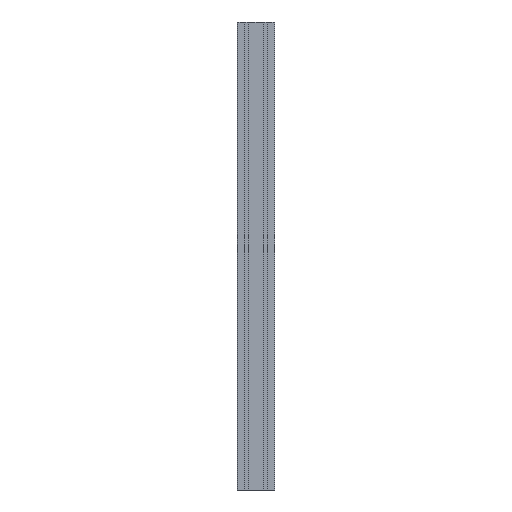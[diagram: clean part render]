
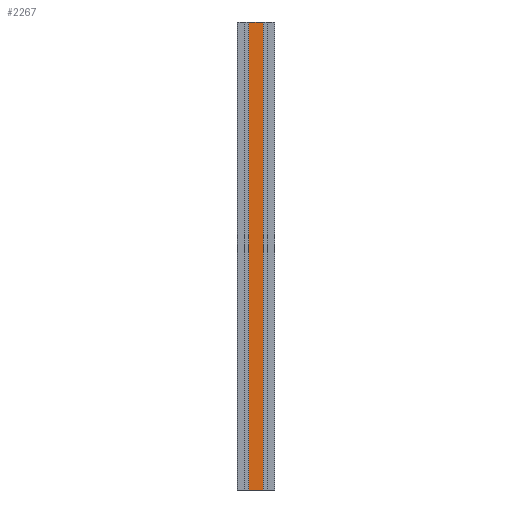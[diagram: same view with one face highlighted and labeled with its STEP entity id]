
A CAD part, front view. The second image highlights one B-rep face of the part: STEP entity #2267.
In plain terms, the highlighted planar face has unit normal (0, -1, 0).
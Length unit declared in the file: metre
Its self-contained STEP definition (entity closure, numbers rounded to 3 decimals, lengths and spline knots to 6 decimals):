
#95=PLANE('',#2422);
#205=FACE_OUTER_BOUND('',#323,.T.);
#323=EDGE_LOOP('',(#1828,#1829,#1830,#1831));
#565=LINE('',#3534,#845);
#566=LINE('',#3537,#846);
#567=LINE('',#3539,#847);
#568=LINE('',#3540,#848);
#845=VECTOR('',#2898,1.);
#846=VECTOR('',#2901,0.0317);
#847=VECTOR('',#2902,0.0317);
#848=VECTOR('',#2903,1.);
#1134=VERTEX_POINT('',#3530);
#1135=VERTEX_POINT('',#3532);
#1136=VERTEX_POINT('',#3536);
#1137=VERTEX_POINT('',#3538);
#1429=EDGE_CURVE('',#1134,#1135,#565,.T.);
#1430=EDGE_CURVE('',#1134,#1136,#566,.T.);
#1431=EDGE_CURVE('',#1137,#1135,#567,.T.);
#1432=EDGE_CURVE('',#1136,#1137,#568,.T.);
#1828=ORIENTED_EDGE('',*,*,#1430,.F.);
#1829=ORIENTED_EDGE('',*,*,#1429,.T.);
#1830=ORIENTED_EDGE('',*,*,#1431,.F.);
#1831=ORIENTED_EDGE('',*,*,#1432,.F.);
#2267=ADVANCED_FACE('',(#205),#95,.T.);
#2422=AXIS2_PLACEMENT_3D('',#3535,#2899,#2900);
#2898=DIRECTION('',(0.,0.,1.));
#2899=DIRECTION('center_axis',(0.,-1.,0.));
#2900=DIRECTION('ref_axis',(0.,0.,-1.));
#2901=DIRECTION('',(-1.,0.,0.));
#2902=DIRECTION('',(1.,0.,0.));
#2903=DIRECTION('',(0.,0.,1.));
#3530=CARTESIAN_POINT('',(0.01585,-0.02,0.));
#3532=CARTESIAN_POINT('',(0.01585,-0.02,1.));
#3534=CARTESIAN_POINT('',(0.01585,-0.02,0.));
#3535=CARTESIAN_POINT('Origin',(-0.01585,-0.02,0.));
#3536=CARTESIAN_POINT('',(-0.01585,-0.02,0.));
#3537=CARTESIAN_POINT('',(0.01585,-0.02,0.));
#3538=CARTESIAN_POINT('',(-0.01585,-0.02,1.));
#3539=CARTESIAN_POINT('',(-0.01585,-0.02,1.));
#3540=CARTESIAN_POINT('',(-0.01585,-0.02,0.));
